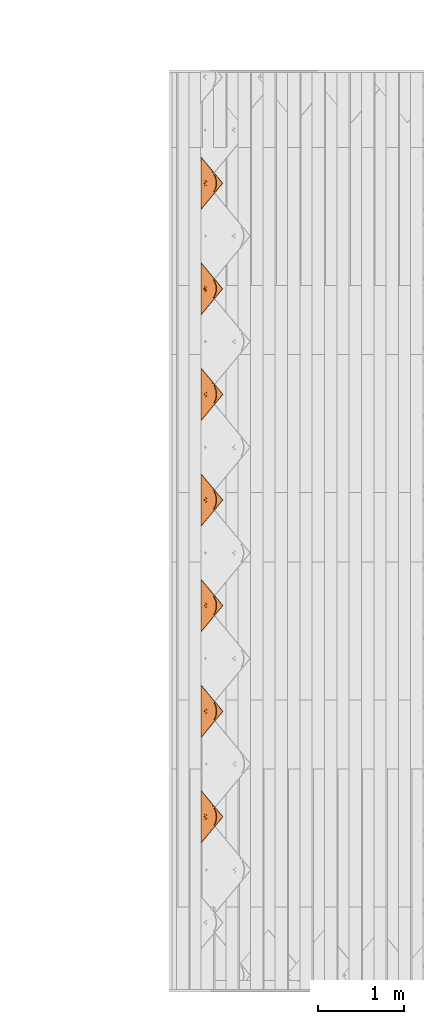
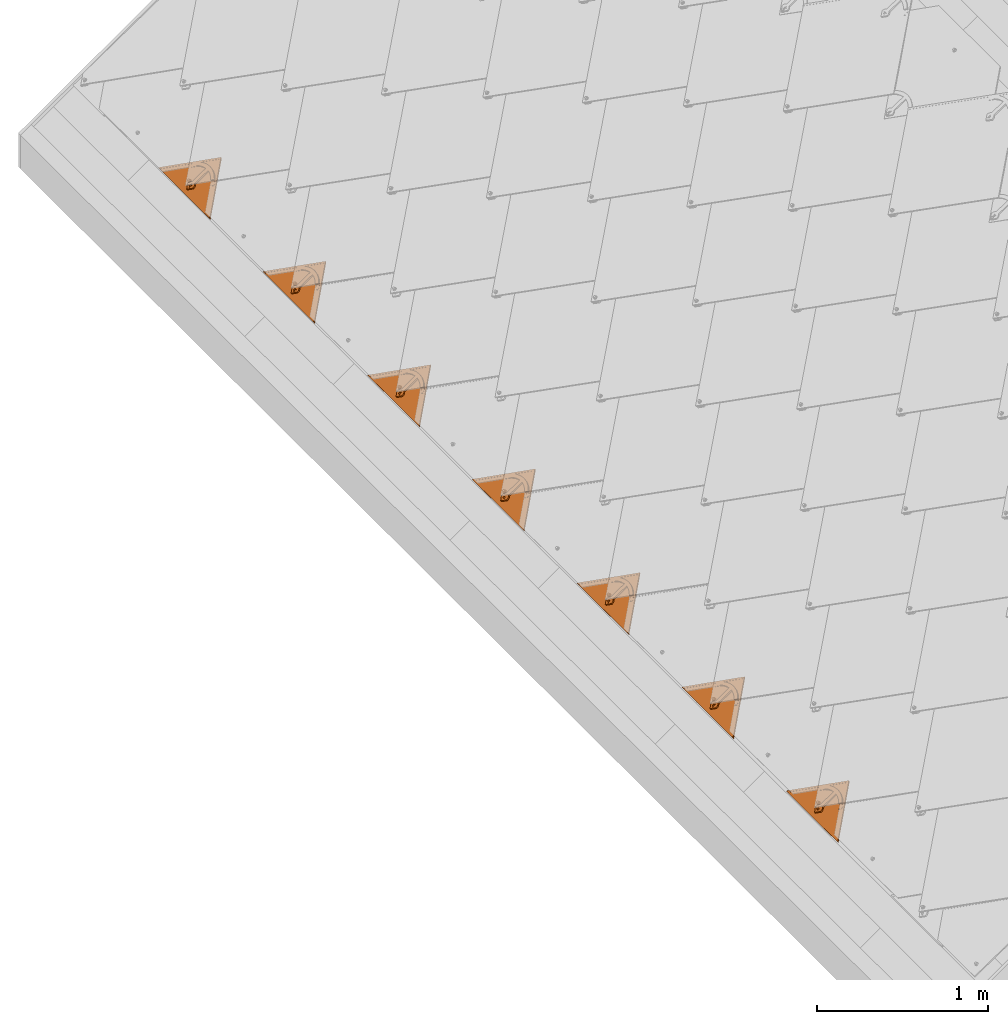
# One storey, part 115 of 151: 7 proxies.
"""IFC2X3 building model written with IfcOpenShell, lengths in millimetres."""

from ifc_helpers import new_model, entity, si_unit, converted_unit, derived_unit, direction, frame, origin, place, context, subcontext, project, spatial, faceted_brep, source, transform, mapped, material, material_list, type_object, type_shapes, element, save


model = new_model("IFC2X3")

# Units and contexts
model_context = context("Model", 3, precision=0.01, world=origin(), true_north=direction((6.12303176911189e-17, 1.0)))
body_context = subcontext(model_context, "Body", "Model", "MODEL_VIEW")
ifc_project = project(units=[si_unit("LENGTHUNIT", "METRE", prefix="MILLI"), si_unit("AREAUNIT", "SQUARE_METRE"), si_unit("VOLUMEUNIT", "CUBIC_METRE"), converted_unit("PLANEANGLEUNIT", "DEGREE", entity("IfcRatioMeasure", 0.0174532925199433), si_unit("PLANEANGLEUNIT", "RADIAN"), dimensions=[0, 0, 0, 0, 0, 0, 0]), si_unit("MASSUNIT", "GRAM", prefix="KILO"), derived_unit("MASSDENSITYUNIT", [(si_unit("MASSUNIT", "GRAM", prefix="KILO"), 1), (si_unit("LENGTHUNIT", "METRE"), -3)]), si_unit("TIMEUNIT", "SECOND"), si_unit("FREQUENCYUNIT", "HERTZ"), si_unit("THERMODYNAMICTEMPERATUREUNIT", "DEGREE_CELSIUS"), derived_unit("THERMALTRANSMITTANCEUNIT", [(si_unit("MASSUNIT", "GRAM", prefix="KILO"), 1), (si_unit("THERMODYNAMICTEMPERATUREUNIT", "KELVIN"), -1), (si_unit("TIMEUNIT", "SECOND"), -3)]), derived_unit("VOLUMETRICFLOWRATEUNIT", [(si_unit("LENGTHUNIT", "METRE"), 3), (si_unit("TIMEUNIT", "SECOND"), -1)]), si_unit("ELECTRICCURRENTUNIT", "AMPERE"), si_unit("ELECTRICVOLTAGEUNIT", "VOLT"), si_unit("POWERUNIT", "WATT"), si_unit("FORCEUNIT", "NEWTON", prefix="KILO"), si_unit("ILLUMINANCEUNIT", "LUX"), si_unit("LUMINOUSFLUXUNIT", "LUMEN"), si_unit("LUMINOUSINTENSITYUNIT", "CANDELA"), derived_unit("USERDEFINED", [(si_unit("MASSUNIT", "GRAM", prefix="KILO"), -1), (si_unit("LENGTHUNIT", "METRE"), -2), (si_unit("TIMEUNIT", "SECOND"), 3), (si_unit("LUMINOUSFLUXUNIT", "LUMEN"), 1)]), derived_unit("LINEARVELOCITYUNIT", [(si_unit("LENGTHUNIT", "METRE"), 1), (si_unit("TIMEUNIT", "SECOND"), -1)]), si_unit("PRESSUREUNIT", "PASCAL"), derived_unit("USERDEFINED", [(si_unit("LENGTHUNIT", "METRE"), -2), (si_unit("MASSUNIT", "GRAM", prefix="KILO"), 1), (si_unit("TIMEUNIT", "SECOND"), -2)])], contexts=[model_context])

# Site, building, storey
site_placement = place(None, origin())
site = spatial("IfcSite", under=ifc_project, at=site_placement, Name="Default", CompositionType="ELEMENT")
building_placement = place(site_placement, origin())
building = spatial("IfcBuilding", under=site, at=building_placement, CompositionType="ELEMENT")
storey_placement = place(building_placement, origin())
storey = spatial("IfcBuildingStorey", under=building, at=storey_placement, Name="Level 1", CompositionType="ELEMENT", Elevation=0.0)

# Proxies
ifc_material_1 = material(Name="Rubber - Sunstyle - Black")
ifc_material_2 = material(Name="Glass - Sunstyle - Tainted Black")
ifc_material_list_1 = material_list([ifc_material_1, ifc_material_2])
ifc_material_list_2 = material_list([ifc_material_1, ifc_material_2])
building_element_proxy_type = type_object("IfcBuildingElementProxyType", Name="Shingle Bottom Small - Black", PredefinedType="NOTDEFINED", material=ifc_material_list_2)
shared_shape = source(origin(), body_context, "Body", "Brep", [
    faceted_brep([(302.08842791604, 44.9093317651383, 22.0558382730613), (302.08842791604, 49.408700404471, 21.980485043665), (293.484723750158, 48.4726030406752, 21.9961623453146), (310.692132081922, 48.4726030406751, 21.9961623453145), (308.728656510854, 53.2419006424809, 21.9162884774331), (314.255903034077, 57.0751008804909, 21.8520919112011), (308.728656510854, 60.9083011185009, 21.7878953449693), (310.692132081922, 65.6775987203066, 21.7080214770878), (302.08842791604, 64.7415013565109, 21.7236987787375), (302.08842791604, 69.2408699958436, 21.6483455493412), (293.484723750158, 65.6775987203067, 21.708021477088), (295.448199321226, 60.908301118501, 21.7878953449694), (289.920952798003, 57.0751008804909, 21.8520919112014), (295.448199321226, 53.2419006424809, 21.9162884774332), (295.448199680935, 60.6403782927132, 5.79013870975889), (302.08842791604, 64.473578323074, 5.72594214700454), (295.448199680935, 52.9739782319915, 5.91853183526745), (302.08842791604, 49.1407782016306, 5.98272839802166), (308.728656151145, 52.9739782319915, 5.91853183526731), (308.728656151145, 60.6403782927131, 5.79013870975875), (293.484723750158, 48.2046804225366, 5.99840570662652), (302.08842791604, 44.6414091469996, 6.05808163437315), (289.920952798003, 56.8071782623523, 5.85433527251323), (293.484723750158, 65.4096761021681, 5.71026483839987), (302.08842791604, 68.972947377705, 5.65058891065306), (310.692132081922, 65.409676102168, 5.71026483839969), (314.255903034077, 56.8071782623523, 5.85433527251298), (310.692132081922, 48.2046804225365, 5.99840570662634)], [[[0, 1, 2]], [[1, 0, 3]], [[3, 4, 1]], [[4, 3, 5]], [[6, 4, 5]], [[5, 7, 6]], [[7, 8, 6]], [[8, 7, 9]], [[8, 9, 10]], [[10, 11, 8]], [[12, 11, 10]], [[2, 13, 12]], [[12, 13, 11]], [[13, 2, 1]], [[8, 11, 14, 15]], [[11, 13, 16, 14]], [[13, 1, 17, 16]], [[1, 4, 18, 17]], [[4, 6, 19, 18]], [[6, 8, 15, 19]], [[20, 17, 21]], [[17, 20, 16]], [[22, 16, 20]], [[14, 16, 22]], [[23, 14, 22]], [[15, 14, 23]], [[23, 24, 15]], [[24, 25, 15]], [[19, 15, 25]], [[19, 25, 26]], [[26, 18, 19]], [[26, 27, 18]], [[17, 18, 27]], [[27, 21, 17]], [[24, 23, 10, 9]], [[10, 23, 22, 12]], [[20, 21, 0, 2]], [[20, 2, 12, 22]], [[21, 27, 3, 0]], [[3, 27, 26, 5]], [[25, 24, 9, 7]], [[25, 7, 5, 26]]]),
    faceted_brep([(587.35835892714, 0.0, 12.5593198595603), (595.843045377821, 8.4846864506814, 12.4172224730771), (595.843045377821, 8.50980419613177, 13.9170121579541), (587.35835892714, 0.0251177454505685, 14.0591095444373), (302.088750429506, 285.189618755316, 7.7831033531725), (16.8191419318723, 0.0, 12.5593198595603), (8.33445548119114, 8.48468645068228, 12.4172224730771), (302.088750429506, 302.156612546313, 7.49894842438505), (302.088750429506, 302.181730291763, 8.9987381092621), (8.33445548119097, 8.50980419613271, 13.9170121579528), (16.8191419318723, 0.0251177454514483, 14.0591095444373), (302.088750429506, 285.214736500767, 9.28289303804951)], [[[0, 1, 2, 3]], [[1, 0, 4, 5, 6, 7]], [[2, 1, 7, 8]], [[3, 2, 8, 9, 10, 11]], [[0, 3, 11, 4]], [[5, 10, 9, 6]], [[8, 7, 6, 9]], [[4, 11, 10, 5]]]),
    faceted_brep([(302.088750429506, 302.156612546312, 7.49894842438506), (305.194256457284, 68.3255429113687, 11.4150370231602), (308.088427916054, 67.1269059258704, 11.4351112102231), (302.088427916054, 68.7343756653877, 11.4081900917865), (310.573709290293, 65.2201498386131, 11.4670446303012), (298.982599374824, 68.3255429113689, 11.4150370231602), (296.088427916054, 67.1269059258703, 11.4351112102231), (293.603146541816, 65.2201498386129, 11.4670446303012), (312.480732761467, 62.7352169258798, 11.5086610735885), (604.177500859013, 0.152567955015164, 12.5567647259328), (291.696123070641, 62.7352169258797, 11.5086610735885), (0.0, 0.152567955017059, 12.5567647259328), (290.497318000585, 59.8414512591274, 11.5571244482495), (290.088427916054, 56.7360581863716, 11.6091320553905), (290.497318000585, 53.6306651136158, 11.6611396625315), (291.696123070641, 50.7368994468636, 11.7096030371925), (293.603146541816, 48.2519665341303, 11.7512194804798), (296.088427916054, 46.3452104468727, 11.7831529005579), (298.982599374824, 45.1465734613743, 11.8032270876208), (302.088427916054, 44.7377407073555, 11.8100740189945), (313.679537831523, 59.8414512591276, 11.5571244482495), (314.088427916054, 56.7360581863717, 11.6091320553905), (313.679537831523, 53.6306651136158, 11.6611396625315), (312.480732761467, 50.7368994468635, 11.7096030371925), (310.573709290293, 48.2519665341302, 11.7512194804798), (308.088427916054, 46.3452104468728, 11.7831529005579), (305.194256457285, 45.1465734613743, 11.8032270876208), (0.0, 0.0269792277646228, 5.0578163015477), (290.088427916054, 56.6104694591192, 4.11018363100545), (290.497318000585, 53.5050763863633, 4.16219123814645), (290.497318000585, 59.7158625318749, 4.05817602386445), (291.696123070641, 50.6113107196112, 4.21065461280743), (291.696123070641, 62.6096281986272, 4.00971264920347), (302.088750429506, 302.031023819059, 0.0), (293.603146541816, 48.1263778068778, 4.25227105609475), (296.088427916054, 46.2196217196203, 4.28420447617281), (298.982599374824, 45.0209847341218, 4.30427866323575), (302.088427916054, 44.612151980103, 4.31112559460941), (604.177500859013, 0.0269792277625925, 5.05781630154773), (293.603146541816, 65.0945611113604, 3.96809620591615), (296.088427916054, 67.0013171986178, 3.93616278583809), (298.982599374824, 68.1999541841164, 3.91608859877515), (302.088427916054, 68.6087869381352, 3.90924166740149), (305.194256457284, 68.1999541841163, 3.91608859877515), (308.088427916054, 67.0013171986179, 3.93616278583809), (310.573709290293, 65.0945611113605, 3.96809620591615), (312.480732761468, 62.6096281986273, 4.00971264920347), (305.194256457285, 45.0209847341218, 4.30427866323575), (308.088427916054, 46.2196217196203, 4.28420447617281), (313.679537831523, 59.7158625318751, 4.05817602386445), (314.088427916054, 56.6104694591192, 4.11018363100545), (313.679537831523, 53.5050763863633, 4.16219123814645), (312.480732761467, 50.611310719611, 4.21065461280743), (310.573709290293, 48.1263778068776, 4.25227105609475)], [[[0, 1, 2]], [[1, 0, 3]], [[0, 2, 4]], [[5, 3, 0]], [[6, 5, 0]], [[0, 7, 6]], [[8, 0, 4]], [[0, 8, 9]], [[7, 0, 10]], [[0, 11, 10]], [[12, 10, 11]], [[11, 13, 12]], [[13, 11, 14]], [[15, 14, 11]], [[11, 16, 15]], [[17, 16, 11]], [[17, 11, 18]], [[19, 18, 11]], [[19, 11, 9]], [[9, 8, 20]], [[20, 21, 9]], [[21, 22, 9]], [[22, 23, 9]], [[9, 23, 24]], [[24, 25, 9]], [[25, 26, 9]], [[9, 26, 19]], [[27, 28, 29]], [[28, 27, 30]], [[27, 29, 31]], [[32, 30, 27]], [[32, 27, 33]], [[31, 34, 27]], [[34, 35, 27]], [[35, 36, 27]], [[36, 37, 27]], [[27, 37, 38]], [[33, 39, 32]], [[40, 39, 33]], [[41, 40, 33]], [[42, 41, 33]], [[33, 43, 42]], [[43, 33, 44]], [[45, 44, 33]], [[33, 46, 45]], [[46, 33, 38]], [[38, 37, 47]], [[47, 48, 38]], [[49, 46, 38]], [[38, 50, 49]], [[50, 38, 51]], [[52, 51, 38]], [[53, 52, 38]], [[53, 38, 48]], [[11, 0, 33, 27]], [[0, 9, 38, 33]], [[13, 28, 30, 12]], [[12, 30, 32, 10]], [[6, 7, 39, 40]], [[39, 7, 10, 32]], [[5, 6, 40, 41]], [[5, 41, 42, 3]], [[3, 42, 43, 1]], [[1, 43, 44, 2]], [[8, 4, 45, 46]], [[45, 4, 2, 44]], [[20, 8, 46, 49]], [[20, 49, 50, 21]], [[21, 50, 51, 22]], [[22, 51, 52, 23]], [[25, 24, 53, 48]], [[53, 24, 23, 52]], [[26, 25, 48, 47]], [[26, 47, 37, 19]], [[19, 37, 36, 18]], [[18, 36, 35, 17]], [[15, 16, 34, 31]], [[34, 16, 17, 35]], [[14, 15, 31, 29]], [[14, 29, 28, 13]], [[9, 11, 27, 38]]]),
    faceted_brep([(190.819384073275, 138.646056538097, 12.7376939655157), (217.144031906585, 164.967013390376, 12.2968834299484), (200.060856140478, 182.04779392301, 12.0108228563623), (193.80845410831, 176.686146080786, 12.100617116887), (187.837458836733, 171.012871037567, 12.1956303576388), (173.141714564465, 156.321247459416, 12.4416784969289), (431.035141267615, 156.321247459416, 12.4416784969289), (416.339396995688, 171.012871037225, 12.1956303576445), (410.36840172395, 176.686146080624, 12.1006171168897), (404.115999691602, 182.047793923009, 12.0108228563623), (387.031626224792, 164.968210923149, 12.2968633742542), (413.357471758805, 138.646056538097, 12.7376939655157), (296.088427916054, 67.294357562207, 21.4337091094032), (288.788427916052, 83.1076295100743, 21.1688761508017), (283.384321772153, 79.569581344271, 21.2281296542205), (293.603146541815, 65.3876014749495, 21.4656425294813), (298.982599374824, 68.4929945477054, 21.4136349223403), (302.088427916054, 68.9018273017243, 21.4067879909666), (315.388427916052, 83.107629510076, 21.1688761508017), (305.194256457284, 68.4929945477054, 21.4136349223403), (308.088427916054, 67.2943575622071, 21.4337091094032), (320.792534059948, 79.5695813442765, 21.2281296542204), (310.573709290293, 65.3876014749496, 21.4656425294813), (325.293078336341, 74.9365758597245, 21.3057209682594), (312.480732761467, 62.9026685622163, 21.5072589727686), (328.672647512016, 69.4324252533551, 21.3979017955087), (313.679537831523, 60.0089028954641, 21.5557223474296), (330.767980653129, 63.323025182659, 21.500219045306), (314.088427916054, 56.9035098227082, 21.6077299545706), (331.477855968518, 56.9035098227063, 21.6077299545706), (313.679537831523, 53.7981167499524, 21.6597375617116), (312.480732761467, 50.9043510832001, 21.7082009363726), (310.573709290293, 48.4194181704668, 21.7498173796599), (302.08842791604, 27.5182024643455, 22.0998607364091), (308.088427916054, 46.5126620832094, 21.7817507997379), (305.194256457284, 45.314025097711, 21.8018249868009), (302.088427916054, 44.9051923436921, 21.8086719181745), (298.982599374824, 45.314025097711, 21.8018249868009), (296.088427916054, 46.5126620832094, 21.7817507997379), (293.603146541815, 48.4194181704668, 21.7498173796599), (272.69899986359, 56.903509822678, 21.6077299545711), (291.696123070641, 50.9043510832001, 21.7082009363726), (290.497318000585, 53.7981167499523, 21.6597375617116), (290.088427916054, 56.9035098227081, 21.6077299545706), (273.408875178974, 63.3230251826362, 21.5002190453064), (290.497318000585, 60.008902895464, 21.5557223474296), (275.504208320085, 69.4324252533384, 21.397901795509), (291.696123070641, 62.9026685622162, 21.5072589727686), (278.883777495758, 74.9365758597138, 21.3057209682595), (288.788427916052, 192.984512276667, 19.3287117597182), (315.388427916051, 192.984512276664, 19.3287117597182), (302.088427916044, 218.456125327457, 18.9021256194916), (338.579268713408, 214.282159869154, 18.9720291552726), (340.858170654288, 188.169632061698, 19.4093490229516), (373.184513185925, 201.975945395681, 19.1781276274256), (365.012761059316, 178.765998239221, 19.5668364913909), (404.115999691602, 182.173382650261, 19.5097712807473), (387.032823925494, 165.092602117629, 19.7958318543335), (265.59758711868, 214.28215986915, 18.9720291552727), (263.318685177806, 188.169632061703, 19.4093490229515), (230.992342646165, 201.975945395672, 19.1781276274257), (239.164094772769, 178.765998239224, 19.5668364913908), (200.06085614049, 182.173382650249, 19.5097712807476), (217.144031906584, 165.092602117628, 19.7958318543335), (302.08842791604, 27.3507508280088, 12.1012628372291), (302.088427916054, 44.7377407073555, 11.8100740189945), (305.194256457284, 45.1465734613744, 11.8032270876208), (298.982599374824, 45.1465734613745, 11.8032270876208), (308.088427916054, 46.3452104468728, 11.7831529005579), (310.573709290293, 48.2519665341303, 11.7512194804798), (331.477855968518, 56.7360581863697, 11.6091320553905), (296.088427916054, 46.3452104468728, 11.7831529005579), (293.603146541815, 48.2519665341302, 11.7512194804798), (272.69899986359, 56.7360581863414, 11.609132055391), (291.696123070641, 50.7368994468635, 11.7096030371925), (290.497318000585, 53.6306651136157, 11.6611396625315), (290.088427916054, 56.7360581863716, 11.6091320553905), (273.408875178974, 63.1555735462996, 11.5016211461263), (290.497318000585, 59.8414512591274, 11.5571244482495), (275.504208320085, 69.2649736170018, 11.3993038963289), (291.696123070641, 62.7352169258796, 11.5086610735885), (278.883777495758, 74.7691242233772, 11.3071230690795), (293.603146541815, 65.2201498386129, 11.4670446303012), (283.384321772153, 79.4021297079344, 11.2295317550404), (296.088427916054, 67.1269059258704, 11.4351112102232), (288.788427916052, 82.9401778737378, 11.1702782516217), (298.982599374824, 68.3255429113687, 11.4150370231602), (302.088427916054, 68.7343756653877, 11.4081900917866), (315.388427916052, 82.9401778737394, 11.1702782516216), (288.788427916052, 192.81706064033, 9.33011386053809), (315.388427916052, 192.817060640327, 9.33011386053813), (302.088427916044, 218.28867369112, 8.90352772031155), (265.59758711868, 214.114708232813, 8.97343125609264), (263.318685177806, 188.002180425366, 9.41075112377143), (230.992342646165, 201.808493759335, 9.17952972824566), (239.164094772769, 178.598546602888, 9.56823859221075), (200.06085614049, 182.005931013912, 9.51117338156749), (217.145229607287, 164.926348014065, 9.79721389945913), (193.80845410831, 176.644283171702, 9.60096764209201), (187.837458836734, 170.971008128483, 9.69598088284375), (190.819384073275, 138.604193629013, 10.2380444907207), (173.141714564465, 156.279384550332, 9.94202902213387), (338.579268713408, 214.114708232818, 8.97343125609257), (340.858170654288, 188.002180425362, 9.41075112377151), (373.184513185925, 201.808493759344, 9.17952972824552), (365.012761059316, 178.598546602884, 9.5682385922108), (404.115999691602, 182.005931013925, 9.51117338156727), (387.032823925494, 164.925150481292, 9.79723395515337), (410.36840172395, 176.64428317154, 9.60096764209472), (416.339396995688, 170.971008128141, 9.69598088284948), (413.357471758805, 138.604193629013, 10.2380444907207), (431.035141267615, 156.279384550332, 9.94202902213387), (305.194256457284, 68.3255429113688, 11.4150370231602), (308.088427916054, 67.1269059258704, 11.4351112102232), (320.792534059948, 79.4021297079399, 11.2295317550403), (310.573709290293, 65.220149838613, 11.4670446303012), (325.293078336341, 74.7691242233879, 11.3071230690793), (312.480732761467, 62.7352169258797, 11.5086610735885), (328.672647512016, 69.2649736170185, 11.3993038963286), (313.679537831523, 59.8414512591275, 11.5571244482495), (330.767980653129, 63.1555735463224, 11.5016211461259), (314.088427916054, 56.7360581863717, 11.6091320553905), (312.480732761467, 50.7368994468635, 11.7096030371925), (313.679537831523, 53.6306651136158, 11.6611396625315)], [[[0, 1, 2, 3, 4, 5]], [[6, 7, 8, 9, 10, 11]], [[12, 13, 14]], [[12, 14, 15]], [[16, 13, 12]], [[17, 13, 16]], [[18, 13, 17]], [[17, 19, 18]], [[19, 20, 18]], [[20, 21, 18]], [[21, 20, 22]], [[21, 22, 23]], [[24, 23, 22]], [[23, 24, 25]], [[24, 26, 25]], [[27, 25, 26]], [[26, 28, 27]], [[29, 27, 28]], [[28, 30, 29]], [[30, 31, 29]], [[29, 31, 32]], [[32, 33, 29]], [[32, 34, 33]], [[35, 33, 34]], [[36, 33, 35]], [[33, 36, 37]], [[38, 33, 37]], [[38, 39, 33]], [[40, 33, 39]], [[41, 40, 39]], [[41, 42, 40]], [[42, 43, 40]], [[43, 44, 40]], [[45, 44, 43]], [[45, 46, 44]], [[45, 47, 46]], [[48, 46, 47]], [[48, 47, 15]], [[48, 15, 14]], [[18, 49, 13]], [[50, 49, 18]], [[51, 49, 50]], [[50, 52, 51]], [[50, 53, 52]], [[52, 53, 54]], [[53, 55, 54]], [[56, 54, 55]], [[57, 56, 55]], [[58, 49, 51]], [[49, 58, 59]], [[60, 59, 58]], [[60, 61, 59]], [[61, 60, 62]], [[62, 63, 61]], [[64, 65, 66]], [[65, 64, 67]], [[64, 66, 68]], [[68, 69, 64]], [[64, 69, 70]], [[71, 67, 64]], [[71, 64, 72]], [[72, 64, 73]], [[73, 74, 72]], [[74, 73, 75]], [[75, 73, 76]], [[77, 76, 73]], [[76, 77, 78]], [[78, 77, 79]], [[80, 78, 79]], [[81, 80, 79]], [[82, 80, 81]], [[83, 82, 81]], [[83, 84, 82]], [[85, 84, 83]], [[85, 86, 84]], [[87, 86, 85]], [[88, 87, 85]], [[89, 88, 85]], [[88, 89, 90]], [[89, 91, 90]], [[91, 89, 92]], [[93, 92, 89]], [[92, 93, 94]], [[95, 94, 93]], [[96, 94, 95]], [[95, 97, 96]], [[97, 98, 96]], [[98, 97, 99]], [[97, 100, 99]], [[99, 100, 101]], [[90, 91, 102]], [[103, 90, 102]], [[103, 102, 104]], [[105, 103, 104]], [[106, 105, 104]], [[107, 105, 106]], [[106, 108, 107]], [[109, 107, 108]], [[110, 107, 109]], [[109, 111, 110]], [[112, 87, 88]], [[113, 112, 88]], [[114, 113, 88]], [[115, 113, 114]], [[115, 114, 116]], [[116, 117, 115]], [[117, 116, 118]], [[118, 119, 117]], [[120, 119, 118]], [[121, 120, 70]], [[120, 121, 119]], [[70, 69, 122]], [[122, 123, 70]], [[123, 121, 70]], [[13, 49, 89, 85]], [[14, 13, 85, 83]], [[48, 14, 83, 81]], [[81, 79, 46, 48]], [[44, 46, 79, 77]], [[40, 44, 77, 73]], [[33, 40, 73, 64]], [[0, 5, 101, 100]], [[29, 33, 64, 70]], [[6, 11, 110, 111]], [[27, 29, 70, 120]], [[25, 27, 120, 118]], [[118, 116, 23, 25]], [[21, 23, 116, 114]], [[18, 21, 114, 88]], [[50, 18, 88, 90]], [[9, 106, 104, 54, 56]], [[52, 54, 104, 102]], [[51, 52, 102, 91]], [[58, 51, 91, 92]], [[94, 96, 2, 62, 60]], [[60, 58, 92, 94]], [[43, 76, 78, 45]], [[45, 78, 80, 47]], [[12, 15, 82, 84]], [[80, 82, 15, 47]], [[16, 12, 84, 86]], [[87, 17, 16, 86]], [[19, 112, 113, 20]], [[20, 113, 115, 22]], [[26, 24, 117, 119]], [[115, 117, 24, 22]], [[28, 26, 119, 121]], [[19, 17, 87, 112]], [[28, 121, 123, 30]], [[30, 123, 122, 31]], [[34, 32, 69, 68]], [[122, 69, 32, 31]], [[35, 34, 68, 66]], [[65, 36, 35, 66]], [[37, 67, 71, 38]], [[38, 71, 72, 39]], [[42, 41, 74, 75]], [[72, 74, 41, 39]], [[43, 42, 75, 76]], [[37, 36, 65, 67]], [[7, 6, 111, 109]], [[7, 109, 108, 8]], [[108, 106, 9, 8]], [[11, 10, 107, 110]], [[1, 0, 100, 97]], [[2, 96, 98, 3]], [[98, 99, 4, 3]], [[5, 4, 99, 101]], [[63, 62, 2, 1]], [[56, 57, 10]], [[10, 9, 56]], [[1, 95, 61, 63]], [[1, 97, 95]], [[93, 89, 49, 59]], [[95, 93, 59, 61]], [[90, 103, 53, 50]], [[103, 105, 55, 53]], [[10, 57, 55]], [[107, 10, 105]], [[55, 105, 10]]]),
])
type_shapes(building_element_proxy_type, [shared_shape])
proxy_1_placement = place(storey_placement, frame((-2315.21359332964, 2943.72183793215, 322.020572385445), z_axis=(-0.57357643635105, 0.0, 0.819152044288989), x_axis=(0.0, -1.0, 0.0)))
element("IfcBuildingElementProxy", 1, at=proxy_1_placement, inside=storey, type_object=building_element_proxy_type, material=ifc_material_list_1, Name="Roofing_Panels_SunStyle_Tile_Shingle-Bottom-Small:Shingle Bottom Small - Black", ObjectType="Roofing_Panels_SunStyle_Tile_Shingle-Bottom-Small:Shingle Bottom Small - Black", context=body_context, shape_type="MappedRepresentation", body=[
    mapped(shared_shape, transform((0.0, 0.0, 0.0), scale=1.0)),
])
ifc_material_list_3 = material_list([ifc_material_1, ifc_material_2])
proxy_2_placement = place(storey_placement, frame((-2316.11655149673, 1720.55702670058, 321.388314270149), z_axis=(-0.57357643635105, 0.0, 0.819152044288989), x_axis=(0.0, -1.0, 0.0)))
element("IfcBuildingElementProxy", 2, at=proxy_2_placement, inside=storey, type_object=building_element_proxy_type, material=ifc_material_list_3, Name="Roofing_Panels_SunStyle_Tile_Shingle-Bottom-Small:Shingle Bottom Small - Black", ObjectType="Roofing_Panels_SunStyle_Tile_Shingle-Bottom-Small:Shingle Bottom Small - Black", context=body_context, shape_type="MappedRepresentation", body=[
    mapped(shared_shape, transform((0.0, 0.0, 0.0), scale=1.0)),
])
ifc_material_list_4 = material_list([ifc_material_1, ifc_material_2])
proxy_3_placement = place(storey_placement, frame((-2313.94514844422, 497.642734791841, 322.908747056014), z_axis=(-0.57357643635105, 0.0, 0.819152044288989), x_axis=(0.0, -1.0, 0.0)))
element("IfcBuildingElementProxy", 3, at=proxy_3_placement, inside=storey, type_object=building_element_proxy_type, material=ifc_material_list_4, Name="Roofing_Panels_SunStyle_Tile_Shingle-Bottom-Small:Shingle Bottom Small - Black", ObjectType="Roofing_Panels_SunStyle_Tile_Shingle-Bottom-Small:Shingle Bottom Small - Black", context=body_context, shape_type="MappedRepresentation", body=[
    mapped(shared_shape, transform((0.0, 0.0, 0.0), scale=1.0)),
])
ifc_material_list_5 = material_list([ifc_material_1, ifc_material_2])
proxy_4_placement = place(storey_placement, frame((-2314.62823132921, -727.323032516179, 322.430447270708), z_axis=(-0.57357643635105, 0.0, 0.819152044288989), x_axis=(0.0, -1.0, 0.0)))
element("IfcBuildingElementProxy", 4, at=proxy_4_placement, inside=storey, type_object=building_element_proxy_type, material=ifc_material_list_5, Name="Roofing_Panels_SunStyle_Tile_Shingle-Bottom-Small:Shingle Bottom Small - Black", ObjectType="Roofing_Panels_SunStyle_Tile_Shingle-Bottom-Small:Shingle Bottom Small - Black", context=body_context, shape_type="MappedRepresentation", body=[
    mapped(shared_shape, transform((0.0, 0.0, 0.0), scale=1.0)),
])
ifc_material_list_6 = material_list([ifc_material_1, ifc_material_2])
proxy_5_placement = place(storey_placement, frame((-2313.88707250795, -1949.64236516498, 322.949412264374), z_axis=(-0.57357643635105, 0.0, 0.819152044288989), x_axis=(0.0, -1.0, 0.0)))
element("IfcBuildingElementProxy", 5, at=proxy_5_placement, inside=storey, type_object=building_element_proxy_type, material=ifc_material_list_6, Name="Roofing_Panels_SunStyle_Tile_Shingle-Bottom-Small:Shingle Bottom Small - Black", ObjectType="Roofing_Panels_SunStyle_Tile_Shingle-Bottom-Small:Shingle Bottom Small - Black", context=body_context, shape_type="MappedRepresentation", body=[
    mapped(shared_shape, transform((0.0, 0.0, 0.0), scale=1.0)),
])
ifc_material_list_7 = material_list([ifc_material_1, ifc_material_2])
proxy_6_placement = place(storey_placement, frame((-2313.73396276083, -3175.02572411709, 323.056620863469), z_axis=(-0.57357643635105, 0.0, 0.819152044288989), x_axis=(0.0, -1.0, 0.0)))
element("IfcBuildingElementProxy", 6, at=proxy_6_placement, inside=storey, type_object=building_element_proxy_type, material=ifc_material_list_7, Name="Roofing_Panels_SunStyle_Tile_Shingle-Bottom-Small:Shingle Bottom Small - Black", ObjectType="Roofing_Panels_SunStyle_Tile_Shingle-Bottom-Small:Shingle Bottom Small - Black", context=body_context, shape_type="MappedRepresentation", body=[
    mapped(shared_shape, transform((0.0, 0.0, 0.0), scale=1.0)),
])
ifc_material_list_8 = material_list([ifc_material_1, ifc_material_2])
proxy_7_placement = place(storey_placement, frame((-2313.69103056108, -4397.03534562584, 323.086682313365), z_axis=(-0.57357643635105, 0.0, 0.819152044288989), x_axis=(0.0, -1.0, 0.0)))
element("IfcBuildingElementProxy", 7, at=proxy_7_placement, inside=storey, type_object=building_element_proxy_type, material=ifc_material_list_8, Name="Roofing_Panels_SunStyle_Tile_Shingle-Bottom-Small:Shingle Bottom Small - Black", ObjectType="Roofing_Panels_SunStyle_Tile_Shingle-Bottom-Small:Shingle Bottom Small - Black", context=body_context, shape_type="MappedRepresentation", body=[
    mapped(shared_shape, transform((0.0, 0.0, 0.0), scale=1.0)),
])

save(model, "model.ifc")
